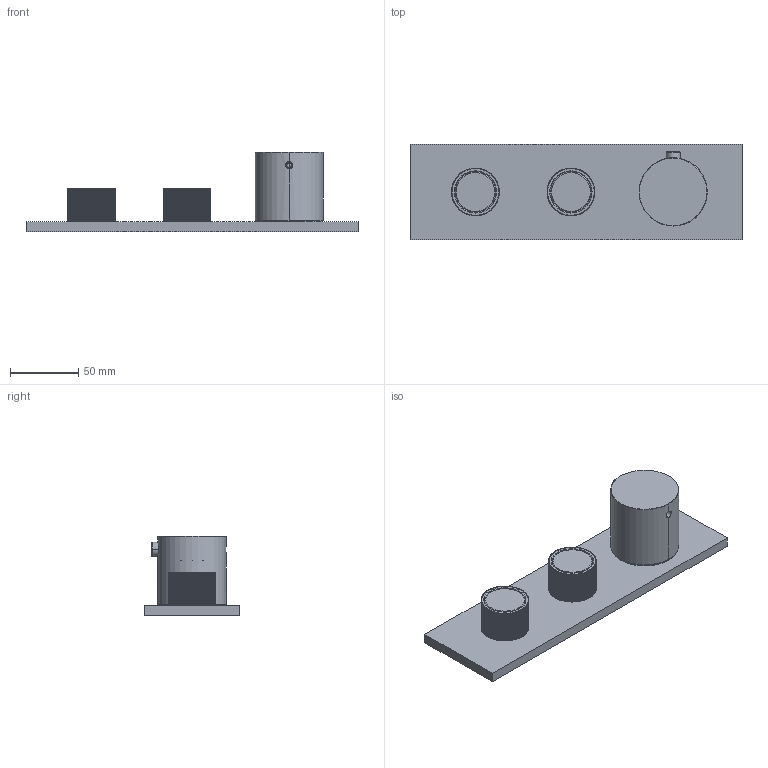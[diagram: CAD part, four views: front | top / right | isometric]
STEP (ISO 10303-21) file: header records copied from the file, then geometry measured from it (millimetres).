
FILE_DESCRIPTION((''),'2;1');
FILE_NAME('DIS_3D_H572B_H572A','2024-11-11T15:36:31',('Luca'),(''),'CREO PARAMETRIC BY PTC INC, 2023154','CREO PARAMETRIC BY PTC INC, 2023154','');
FILE_SCHEMA(('AUTOMOTIVE_DESIGN { 1 0 10303 214 1 1 1 1 }'));
Length unit declared in the file: millimetre
Products named in the file (1): DIS_3D_H572B_H572A
Bounding box: 243.5 x 70 x 58.5 mm (x, y, z)
Volume: 209353.4 mm3; surface area: 65809.6 mm2
Topology: 1 solids, 7 shells, 814 faces, 2373 edges, 1572 vertices
Faces by surface type: plane 507, cylinder 275, cone 22, torus 10
Entity records: 33010 total; most frequent: CARTESIAN_POINT 5090, ORIENTED_EDGE 4722, DIRECTION 4582, EDGE_CURVE 2361, VECTOR 1753, LINE 1753, VERTEX_POINT 1572, AXIS2_PLACEMENT_3D 1413
